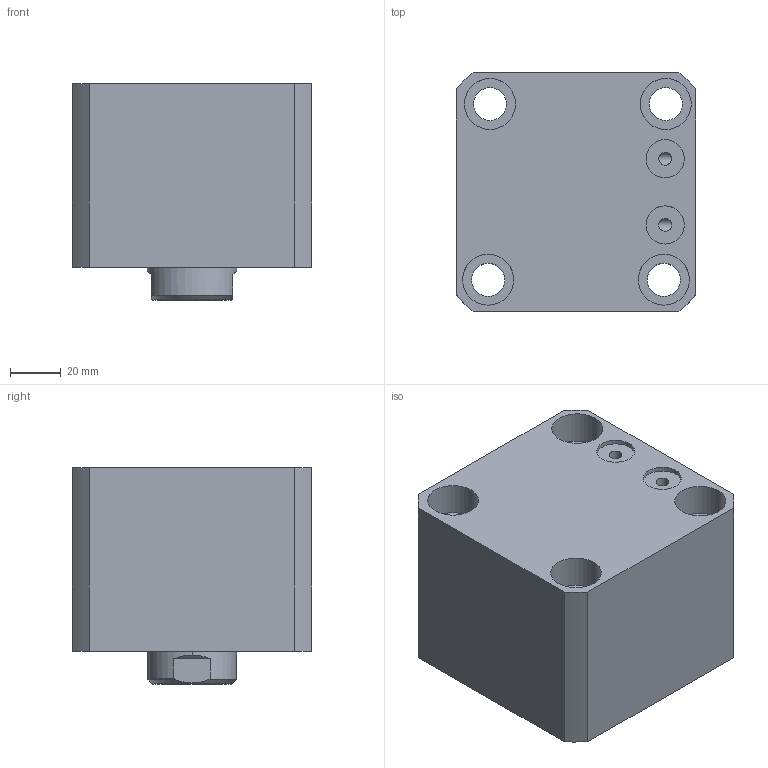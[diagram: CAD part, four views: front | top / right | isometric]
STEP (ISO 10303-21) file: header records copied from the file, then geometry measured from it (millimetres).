
FILE_DESCRIPTION (( 'STEP AP214' ), '1' );
FILE_NAME ('chtb-sdmb63x5n_asm.STEP', '2018-05-16T06:55:26', ( 'Windows' ), ( 'Microsoft' ), 'SwSTEP 2.0', 'SolidWorks 2015', '' );
FILE_SCHEMA (( 'AUTOMOTIVE_DESIGN' ));
Length unit declared in the file: millimetre
Products named in the file (4): CHTB-SDMB63X5NBT; CHTB63X5NHSG; CHTB-63QG; chtb-sdmb63x5n_asm
Assembly tree (3 placements, depth 2):
  chtb-sdmb63x5n_asm
    CHTB-63QG
    CHTB63X5NHSG
    CHTB-SDMB63X5NBT
Bounding box: 94 x 94 x 85 mm (x, y, z)
Volume: 563635.1 mm3; surface area: 106967.8 mm2
Topology: 3 solids, 3 shells, 164 faces, 468 edges, 318 vertices
Faces by surface type: cylinder 107, plane 30, bspline 12, cone 8, torus 7
Entity records: 17708 total; most frequent: CARTESIAN_POINT 13594, ORIENTED_EDGE 924, DIRECTION 707, EDGE_CURVE 462, VERTEX_POINT 318, AXIS2_PLACEMENT_3D 284, EDGE_LOOP 196, ADVANCED_FACE 164
